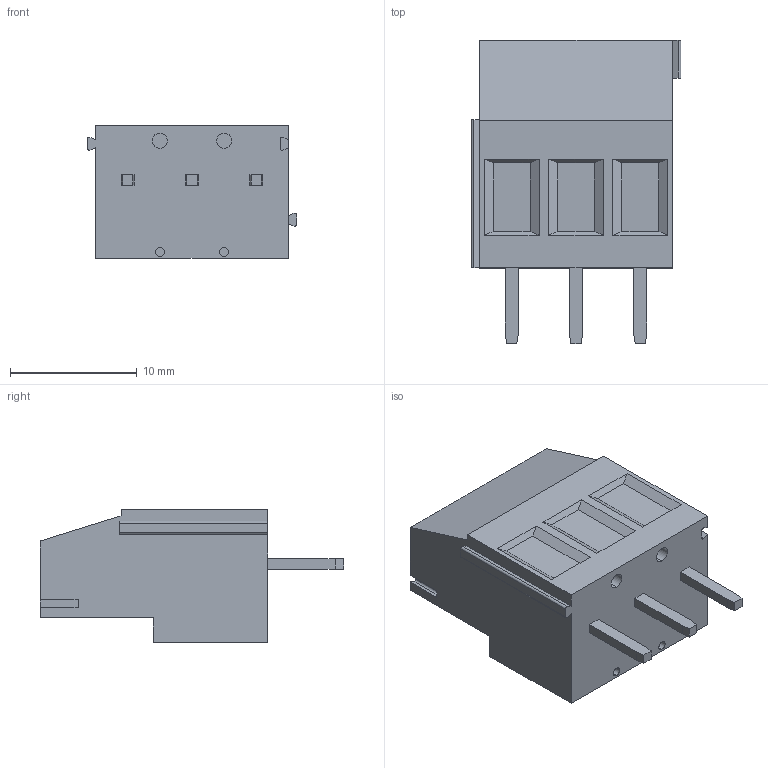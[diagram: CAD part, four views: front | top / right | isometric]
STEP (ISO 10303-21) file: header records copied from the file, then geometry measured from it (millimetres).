
FILE_DESCRIPTION (( 'STEP AP203' ), '1' );
FILE_NAME ('BR903V.STEP', '2019-05-30T17:45:35', ( '' ), ( '' ), 'SwSTEP 2.0', 'SolidWorks 2012', '' );
FILE_SCHEMA (( 'CONFIG_CONTROL_DESIGN' ));
Length unit declared in the file: millimetre
Products named in the file (1): BR903V
Bounding box: 16.54 x 24 x 10.5 mm (x, y, z)
Volume: 2321.1 mm3; surface area: 1597.6 mm2
Topology: 1 solids, 1 shells, 217 faces, 538 edges, 343 vertices
Faces by surface type: plane 100, cylinder 58, cone 38, bspline 21
Entity records: 6791 total; most frequent: CARTESIAN_POINT 1537, DIRECTION 1098, ORIENTED_EDGE 1076, EDGE_CURVE 538, AXIS2_PLACEMENT_3D 396, VERTEX_POINT 343, VECTOR 306, LINE 306
